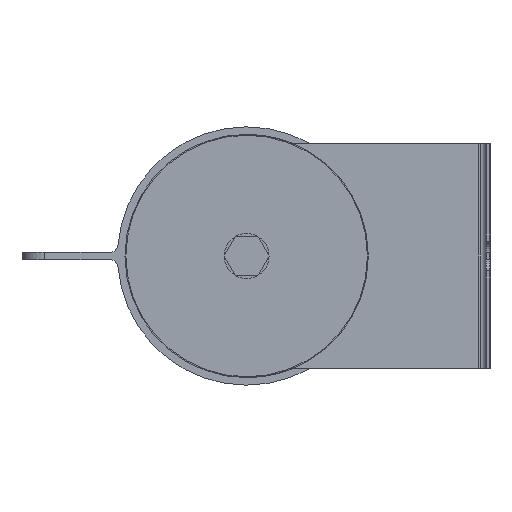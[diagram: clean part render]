
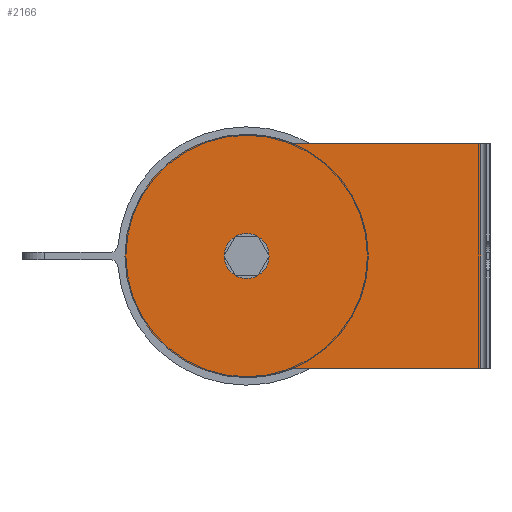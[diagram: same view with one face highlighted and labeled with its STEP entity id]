
A CAD part, left-side view. The second image highlights one B-rep face of the part: STEP entity #2166.
In plain terms, the highlighted planar face has unit normal (-1, 0, 0).
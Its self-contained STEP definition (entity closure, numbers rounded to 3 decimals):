
#10 = CARTESIAN_POINT ( 'NONE',  ( -421.5, 0., -32.5 ) ) ;
#84 = ORIENTED_EDGE ( 'NONE', *, *, #214, .T. ) ;
#86 = CARTESIAN_POINT ( 'NONE',  ( -421.5, -62.5, 30. ) ) ;
#126 = DIRECTION ( 'NONE',  ( -1., 0., 0. ) ) ;
#135 = VECTOR ( 'NONE', #2033, 1000. ) ;
#147 = CARTESIAN_POINT ( 'NONE',  ( -421.5, -62.5, 30. ) ) ;
#148 = CIRCLE ( 'NONE', #493, 32.5 ) ;
#150 = DIRECTION ( 'NONE',  ( 0., 0., 1. ) ) ;
#152 = EDGE_LOOP ( 'NONE', ( #2602, #2582 ) ) ;
#214 = EDGE_CURVE ( 'NONE', #1253, #1015, #769, .T. ) ;
#268 = ORIENTED_EDGE ( 'NONE', *, *, #2588, .T. ) ;
#354 = AXIS2_PLACEMENT_3D ( 'NONE', #3058, #1086, #2316 ) ;
#439 = ORIENTED_EDGE ( 'NONE', *, *, #920, .T. ) ;
#491 = ORIENTED_EDGE ( 'NONE', *, *, #2874, .T. ) ;
#493 = AXIS2_PLACEMENT_3D ( 'NONE', #1408, #126, #150 ) ;
#561 = DIRECTION ( 'NONE',  ( 0., 1., 0. ) ) ;
#591 = DIRECTION ( 'NONE',  ( 0., 0., 1. ) ) ;
#649 = CARTESIAN_POINT ( 'NONE',  ( -421.5, 0., 0. ) ) ;
#657 = VERTEX_POINT ( 'NONE', #2022 ) ;
#689 = VERTEX_POINT ( 'NONE', #2523 ) ;
#715 = CARTESIAN_POINT ( 'NONE',  ( -421.5, 0., 0. ) ) ;
#769 = CIRCLE ( 'NONE', #2568, 32.5 ) ;
#833 = VERTEX_POINT ( 'NONE', #10 ) ;
#856 = FACE_BOUND ( 'NONE', #152, .T. ) ;
#920 = EDGE_CURVE ( 'NONE', #1015, #833, #148, .T. ) ;
#959 = EDGE_CURVE ( 'NONE', #833, #657, #1010, .T. ) ;
#993 = CARTESIAN_POINT ( 'NONE',  ( -421.5, 0., 6. ) ) ;
#1010 = CIRCLE ( 'NONE', #1190, 32.5 ) ;
#1015 = VERTEX_POINT ( 'NONE', #3119 ) ;
#1041 = CARTESIAN_POINT ( 'NONE',  ( -421.5, 0., -30. ) ) ;
#1086 = DIRECTION ( 'NONE',  ( -1., 0., 0. ) ) ;
#1133 = DIRECTION ( 'NONE',  ( 0., 0., 1. ) ) ;
#1190 = AXIS2_PLACEMENT_3D ( 'NONE', #649, #1889, #2652 ) ;
#1201 = ORIENTED_EDGE ( 'NONE', *, *, #959, .T. ) ;
#1206 = DIRECTION ( 'NONE',  ( -1., 0., 0. ) ) ;
#1253 = VERTEX_POINT ( 'NONE', #2812 ) ;
#1256 = EDGE_LOOP ( 'NONE', ( #491, #3128, #268, #84, #439, #1201 ) ) ;
#1301 = VERTEX_POINT ( 'NONE', #993 ) ;
#1408 = CARTESIAN_POINT ( 'NONE',  ( -421.5, 0., 0. ) ) ;
#1468 = VERTEX_POINT ( 'NONE', #2670 ) ;
#1544 = CIRCLE ( 'NONE', #2280, 6. ) ;
#1584 = LINE ( 'NONE', #2806, #2998 ) ;
#1614 = LINE ( 'NONE', #147, #2396 ) ;
#1704 = EDGE_CURVE ( 'NONE', #689, #1301, #1894, .T. ) ;
#1745 = VERTEX_POINT ( 'NONE', #86 ) ;
#1803 = DIRECTION ( 'NONE',  ( -1., 0., 0. ) ) ;
#1889 = DIRECTION ( 'NONE',  ( -1., 0., 0. ) ) ;
#1894 = CIRCLE ( 'NONE', #354, 6. ) ;
#2022 = CARTESIAN_POINT ( 'NONE',  ( -421.5, -12.5, -30. ) ) ;
#2033 = DIRECTION ( 'NONE',  ( 0., -1., 0. ) ) ;
#2166 = ADVANCED_FACE ( 'NONE', ( #856, #2283 ), #2217, .T. ) ;
#2171 = AXIS2_PLACEMENT_3D ( 'NONE', #2248, #2780, #2537 ) ;
#2217 = PLANE ( 'NONE',  #2171 ) ;
#2248 = CARTESIAN_POINT ( 'NONE',  ( -421.5, 0., 0. ) ) ;
#2280 = AXIS2_PLACEMENT_3D ( 'NONE', #715, #1206, #3161 ) ;
#2283 = FACE_OUTER_BOUND ( 'NONE', #1256, .T. ) ;
#2316 = DIRECTION ( 'NONE',  ( 0., 0., 1. ) ) ;
#2319 = LINE ( 'NONE', #1041, #135 ) ;
#2378 = EDGE_CURVE ( 'NONE', #1301, #689, #1544, .T. ) ;
#2396 = VECTOR ( 'NONE', #1133, 1000. ) ;
#2523 = CARTESIAN_POINT ( 'NONE',  ( -421.5, 0., -6. ) ) ;
#2537 = DIRECTION ( 'NONE',  ( 0., 0., 1. ) ) ;
#2568 = AXIS2_PLACEMENT_3D ( 'NONE', #3021, #1803, #591 ) ;
#2582 = ORIENTED_EDGE ( 'NONE', *, *, #2378, .F. ) ;
#2588 = EDGE_CURVE ( 'NONE', #1745, #1253, #1584, .T. ) ;
#2602 = ORIENTED_EDGE ( 'NONE', *, *, #1704, .F. ) ;
#2650 = EDGE_CURVE ( 'NONE', #1468, #1745, #1614, .T. ) ;
#2652 = DIRECTION ( 'NONE',  ( 0., 0., 1. ) ) ;
#2670 = CARTESIAN_POINT ( 'NONE',  ( -421.5, -62.5, -30. ) ) ;
#2780 = DIRECTION ( 'NONE',  ( -1., 0., 0. ) ) ;
#2806 = CARTESIAN_POINT ( 'NONE',  ( -421.5, 0., 30. ) ) ;
#2812 = CARTESIAN_POINT ( 'NONE',  ( -421.5, -12.5, 30. ) ) ;
#2874 = EDGE_CURVE ( 'NONE', #657, #1468, #2319, .T. ) ;
#2998 = VECTOR ( 'NONE', #561, 1000. ) ;
#3021 = CARTESIAN_POINT ( 'NONE',  ( -421.5, 0., 0. ) ) ;
#3058 = CARTESIAN_POINT ( 'NONE',  ( -421.5, 0., 0. ) ) ;
#3119 = CARTESIAN_POINT ( 'NONE',  ( -421.5, 0., 32.5 ) ) ;
#3128 = ORIENTED_EDGE ( 'NONE', *, *, #2650, .T. ) ;
#3161 = DIRECTION ( 'NONE',  ( 0., 0., 1. ) ) ;
